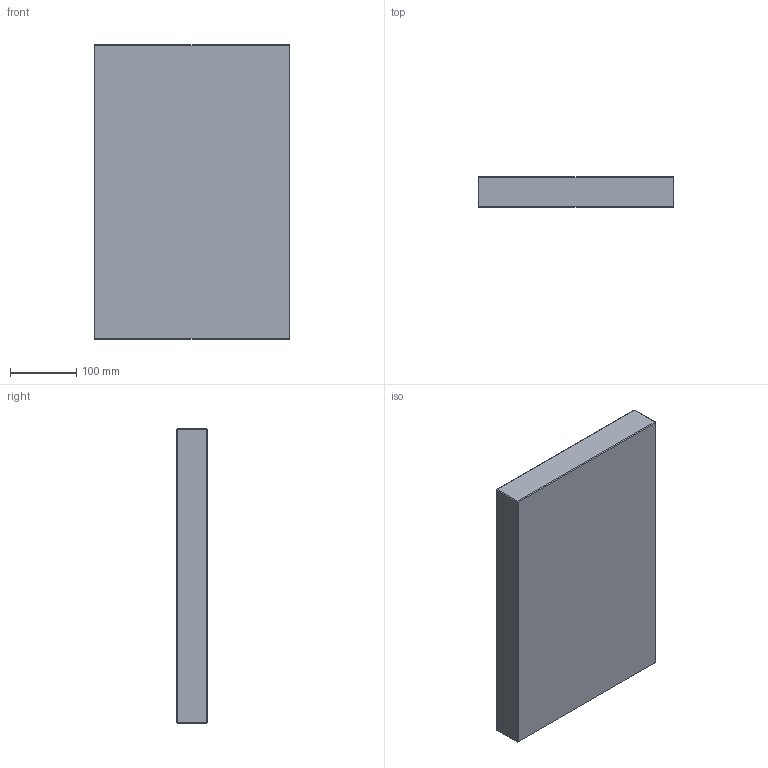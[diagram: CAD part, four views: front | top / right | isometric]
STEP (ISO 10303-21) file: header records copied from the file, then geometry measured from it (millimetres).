
FILE_DESCRIPTION (( 'STEP AP214' ), '1' );
FILE_NAME ('PC-P-296x446x46.STEP', '2020-04-01T09:53:13', ( 'August' ), ( '' ), 'SwSTEP 2.0', 'SolidWorks 2018', '' );
FILE_SCHEMA (( 'AUTOMOTIVE_DESIGN' ));
Length unit declared in the file: millimetre
Products named in the file (1): PC-P-296x446x46
Bounding box: 296 x 46 x 446 mm (x, y, z)
Volume: 6071165.3 mm3; surface area: 330446.6 mm2
Topology: 1 solids, 1 shells, 26 faces, 48 edges, 24 vertices
Faces by surface type: plane 26
Entity records: 634 total; most frequent: DIRECTION 102, CARTESIAN_POINT 99, ORIENTED_EDGE 96, EDGE_CURVE 48, VECTOR 48, LINE 48, AXIS2_PLACEMENT_3D 27, FACE_OUTER_BOUND 26
